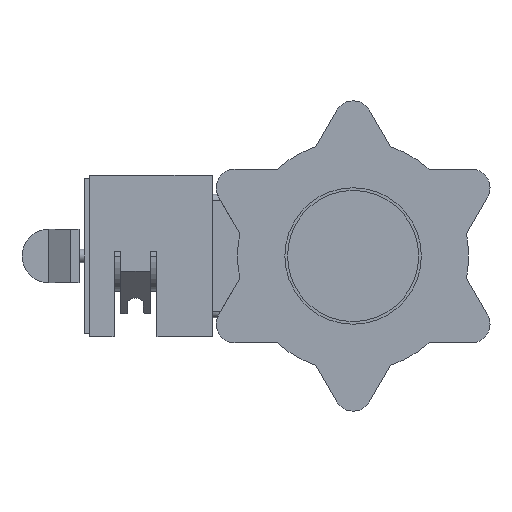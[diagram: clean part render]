
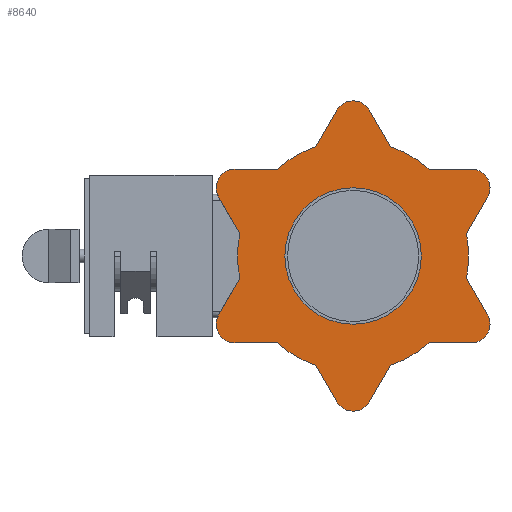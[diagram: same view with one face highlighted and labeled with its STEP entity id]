
A CAD part, left-side view. The second image highlights one B-rep face of the part: STEP entity #8640.
In plain terms, the highlighted planar face has unit normal (-1, 0, 0) as drawn and (0, -1, 0) by its records, which use the part's own axes.
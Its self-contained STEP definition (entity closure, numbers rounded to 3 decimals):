
#200=CARTESIAN_POINT('',(84.375,-135.5,16.641));
#210=VERTEX_POINT('',#200);
#240=CARTESIAN_POINT('',(74.767,-135.5,0.));
#250=DIRECTION('',(0.5,0.,0.866));
#260=VECTOR('',#250,1.);
#270=LINE('',#240,#260);
#280=CARTESIAN_POINT('',(100.026,-135.5,43.75));
#290=VERTEX_POINT('',#280);
#300=EDGE_CURVE('',#210,#290,#270,.T.);
#600=CARTESIAN_POINT('',(27.776,-135.5,81.391));
#610=VERTEX_POINT('',#600);
#640=CARTESIAN_POINT('',(74.767,-135.5,0.));
#650=DIRECTION('',(-0.5,0.,0.866));
#660=VECTOR('',#650,1.);
#670=LINE('',#640,#660);
#680=CARTESIAN_POINT('',(12.124,-135.5,108.5));
#690=VERTEX_POINT('',#680);
#700=EDGE_CURVE('',#610,#690,#670,.T.);
#1090=CARTESIAN_POINT('',(-100.026,-135.5,
43.75));
#1100=VERTEX_POINT('',#1090);
#1130=CARTESIAN_POINT('',(-74.767,-135.5,0.));
#1140=DIRECTION('',(0.5,0.,
-0.866));
#1150=VECTOR('',#1140,1.);
#1160=LINE('',#1130,#1150);
#1170=CARTESIAN_POINT('',(-84.375,-135.5,
16.641));
#1180=VERTEX_POINT('',#1170);
#1190=EDGE_CURVE('',#1100,#1180,#1160,.T.);
#1900=CARTESIAN_POINT('',(87.902,-135.5,-64.75));
#1910=VERTEX_POINT('',#1900);
#1940=CARTESIAN_POINT('',(87.902,-135.5,-50.75));
#1950=DIRECTION('',(0.,1.,0.));
#1960=DIRECTION('',(0.,0.,1.));
#1970=AXIS2_PLACEMENT_3D('',#1940,#1950,#1960);
#1980=CIRCLE('',#1970,14.);
#1990=CARTESIAN_POINT('',(100.026,-135.5,-43.75));
#2000=VERTEX_POINT('',#1990);
#2010=EDGE_CURVE('',#2000,#1910,#1980,.T.);
#2290=CARTESIAN_POINT('',(56.599,-135.5,-64.75));
#2300=VERTEX_POINT('',#2290);
#2330=CARTESIAN_POINT('',(0.,-135.5,-64.75));
#2340=DIRECTION('',(1.,0.,0.));
#2350=VECTOR('',#2340,1.);
#2360=LINE('',#2330,#2350);
#2370=EDGE_CURVE('',#2300,#1910,#2360,.T.);
#3460=CARTESIAN_POINT('',(-12.124,-135.5,108.5));
#3470=VERTEX_POINT('',#3460);
#3500=CARTESIAN_POINT('',(-74.767,-135.5,0.));
#3510=DIRECTION('',(-0.5,0.,-0.866));
#3520=VECTOR('',#3510,1.);
#3530=LINE('',#3500,#3520);
#3540=CARTESIAN_POINT('',(-27.776,-135.5,81.391));
#3550=VERTEX_POINT('',#3540);
#3560=EDGE_CURVE('',#3470,#3550,#3530,.T.);
#3820=CARTESIAN_POINT('',(87.902,-135.5,50.75));
#3830=DIRECTION('',(0.,-1.,0.));
#3840=DIRECTION('',(0.,0.,-1.));
#3850=AXIS2_PLACEMENT_3D('',#3820,#3830,#3840);
#3860=CIRCLE('',#3850,14.);
#3870=CARTESIAN_POINT('',(87.902,-135.5,64.75));
#3880=VERTEX_POINT('',#3870);
#3890=EDGE_CURVE('',#290,#3880,#3860,.T.);
#4670=CARTESIAN_POINT('',(0.,-135.5,101.5));
#4680=DIRECTION('',(0.,-1.,0.));
#4690=DIRECTION('',(0.,0.,-1.));
#4700=AXIS2_PLACEMENT_3D('',#4670,#4680,#4690);
#4710=CIRCLE('',#4700,14.);
#4720=EDGE_CURVE('',#690,#3470,#4710,.T.);
#5230=CARTESIAN_POINT('',(0.,-135.5,64.75));
#5240=DIRECTION('',(-1.,0.,0.));
#5250=VECTOR('',#5240,1.);
#5260=LINE('',#5230,#5250);
#5270=CARTESIAN_POINT('',(56.599,-135.5,64.75));
#5280=VERTEX_POINT('',#5270);
#5290=EDGE_CURVE('',#3880,#5280,#5260,.T.);
#6120=CARTESIAN_POINT('',(-100.026,-135.5,-43.75));
#6130=VERTEX_POINT('',#6120);
#6160=CARTESIAN_POINT('',(-87.902,-135.5,-50.75));
#6170=DIRECTION('',(0.,-1.,0.));
#6180=DIRECTION('',(0.,0.,-1.));
#6190=AXIS2_PLACEMENT_3D('',#6160,#6170,#6180);
#6200=CIRCLE('',#6190,14.);
#6210=CARTESIAN_POINT('',(-87.902,-135.5,-64.75));
#6220=VERTEX_POINT('',#6210);
#6230=EDGE_CURVE('',#6130,#6220,#6200,.T.);
#6390=CARTESIAN_POINT('',(-74.767,-135.5,0.));
#6400=DIRECTION('',(-0.5,0.,
-0.866));
#6410=VECTOR('',#6400,1.);
#6420=LINE('',#6390,#6410);
#6430=CARTESIAN_POINT('',(-84.375,-135.5,
-16.641));
#6440=VERTEX_POINT('',#6430);
#6450=EDGE_CURVE('',#6440,#6130,#6420,.T.);
#6880=CARTESIAN_POINT('',(0.,-135.5,-64.75));
#6890=DIRECTION('',(1.,0.,0.));
#6900=VECTOR('',#6890,1.);
#6910=LINE('',#6880,#6900);
#6920=CARTESIAN_POINT('',(-56.599,-135.5,
-64.75));
#6930=VERTEX_POINT('',#6920);
#6940=EDGE_CURVE('',#6220,#6930,#6910,.T.);
#7240=CARTESIAN_POINT('',(-56.599,-135.5,64.75));
#7250=VERTEX_POINT('',#7240);
#7280=CARTESIAN_POINT('',(0.,-135.5,64.75));
#7290=DIRECTION('',(-1.,0.,0.));
#7300=VECTOR('',#7290,1.);
#7310=LINE('',#7280,#7300);
#7320=CARTESIAN_POINT('',(-87.902,-135.5,64.75));
#7330=VERTEX_POINT('',#7320);
#7340=EDGE_CURVE('',#7250,#7330,#7310,.T.);
#7450=CARTESIAN_POINT('',(0.,-135.5,
-115.5));
#7460=DIRECTION('',(0.,1.,0.));
#7470=DIRECTION('',(0.,0.,1.));
#7480=AXIS2_PLACEMENT_3D('',#7450,#7460,#7470);
#7490=PLANE('',#7480);
#7500=CARTESIAN_POINT('',(0.,-135.5,0.));
#7510=DIRECTION('',(0.,-1.,0.));
#7520=DIRECTION('',(0.,0.,-1.));
#7530=AXIS2_PLACEMENT_3D('',#7500,#7510,#7520);
#7540=CIRCLE('',#7530,86.);
#7550=EDGE_CURVE('',#3550,#7250,#7540,.T.);
#7560=ORIENTED_EDGE('',*,*,#7550,.T.);
#7570=ORIENTED_EDGE('',*,*,#3560,.T.);
#7580=ORIENTED_EDGE('',*,*,#4720,.T.);
#7590=ORIENTED_EDGE('',*,*,#700,.T.);
#7600=CARTESIAN_POINT('',(0.,-135.5,0.));
#7610=DIRECTION('',(0.,-1.,0.));
#7620=DIRECTION('',(0.,0.,-1.));
#7630=AXIS2_PLACEMENT_3D('',#7600,#7610,#7620);
#7640=CIRCLE('',#7630,86.);
#7650=EDGE_CURVE('',#5280,#610,#7640,.T.);
#7660=ORIENTED_EDGE('',*,*,#7650,.T.);
#7670=ORIENTED_EDGE('',*,*,#5290,.T.);
#7680=ORIENTED_EDGE('',*,*,#3890,.T.);
#7690=ORIENTED_EDGE('',*,*,#300,.T.);
#7700=CARTESIAN_POINT('',(0.,-135.5,0.));
#7710=DIRECTION('',(0.,-1.,0.));
#7720=DIRECTION('',(0.,0.,-1.));
#7730=AXIS2_PLACEMENT_3D('',#7700,#7710,#7720);
#7740=CIRCLE('',#7730,86.);
#7750=CARTESIAN_POINT('',(84.375,-135.5,-16.641));
#7760=VERTEX_POINT('',#7750);
#7770=EDGE_CURVE('',#7760,#210,#7740,.T.);
#7780=ORIENTED_EDGE('',*,*,#7770,.T.);
#7790=CARTESIAN_POINT('',(74.767,-135.5,0.));
#7800=DIRECTION('',(-0.5,0.,0.866));
#7810=VECTOR('',#7800,1.);
#7820=LINE('',#7790,#7810);
#7830=EDGE_CURVE('',#2000,#7760,#7820,.T.);
#7840=ORIENTED_EDGE('',*,*,#7830,.T.);
#7850=ORIENTED_EDGE('',*,*,#2010,.F.);
#7860=ORIENTED_EDGE('',*,*,#2370,.T.);
#7870=CARTESIAN_POINT('',(0.,-135.5,0.));
#7880=DIRECTION('',(0.,-1.,0.));
#7890=DIRECTION('',(0.,0.,-1.));
#7900=AXIS2_PLACEMENT_3D('',#7870,#7880,#7890);
#7910=CIRCLE('',#7900,86.);
#7920=CARTESIAN_POINT('',(27.776,-135.5,-81.391));
#7930=VERTEX_POINT('',#7920);
#7940=EDGE_CURVE('',#7930,#2300,#7910,.T.);
#7950=ORIENTED_EDGE('',*,*,#7940,.T.);
#7960=CARTESIAN_POINT('',(74.767,-135.5,0.));
#7970=DIRECTION('',(0.5,0.,0.866));
#7980=VECTOR('',#7970,1.);
#7990=LINE('',#7960,#7980);
#8000=CARTESIAN_POINT('',(12.124,-135.5,-108.5));
#8010=VERTEX_POINT('',#8000);
#8020=EDGE_CURVE('',#8010,#7930,#7990,.T.);
#8030=ORIENTED_EDGE('',*,*,#8020,.T.);
#8040=CARTESIAN_POINT('',(0.,-135.5,-101.5
));
#8050=DIRECTION('',(0.,1.,0.));
#8060=DIRECTION('',(0.,0.,1.));
#8070=AXIS2_PLACEMENT_3D('',#8040,#8050,#8060);
#8080=CIRCLE('',#8070,14.);
#8090=CARTESIAN_POINT('',(-12.124,-135.5,-108.5));
#8100=VERTEX_POINT('',#8090);
#8110=EDGE_CURVE('',#8010,#8100,#8080,.T.);
#8120=ORIENTED_EDGE('',*,*,#8110,.F.);
#8130=CARTESIAN_POINT('',(-74.767,-135.5,0.));
#8140=DIRECTION('',(0.5,0.,-0.866));
#8150=VECTOR('',#8140,1.);
#8160=LINE('',#8130,#8150);
#8170=CARTESIAN_POINT('',(-27.776,-135.5,
-81.391));
#8180=VERTEX_POINT('',#8170);
#8190=EDGE_CURVE('',#8180,#8100,#8160,.T.);
#8200=ORIENTED_EDGE('',*,*,#8190,.T.);
#8210=CARTESIAN_POINT('',(0.,-135.5,
0.));
#8220=DIRECTION('',(0.,1.,0.));
#8230=DIRECTION('',(0.,0.,1.));
#8240=AXIS2_PLACEMENT_3D('',#8210,#8220,#8230);
#8250=CIRCLE('',#8240,86.);
#8260=EDGE_CURVE('',#8180,#6930,#8250,.T.);
#8270=ORIENTED_EDGE('',*,*,#8260,.F.);
#8280=ORIENTED_EDGE('',*,*,#6940,.T.);
#8290=ORIENTED_EDGE('',*,*,#6230,.T.);
#8300=ORIENTED_EDGE('',*,*,#6450,.T.);
#8310=CARTESIAN_POINT('',(0.,-135.5,0.));
#8320=DIRECTION('',(0.,-1.,0.));
#8330=DIRECTION('',(0.,0.,-1.));
#8340=AXIS2_PLACEMENT_3D('',#8310,#8320,#8330);
#8350=CIRCLE('',#8340,86.);
#8360=EDGE_CURVE('',#1180,#6440,#8350,.T.);
#8370=ORIENTED_EDGE('',*,*,#8360,.T.);
#8380=ORIENTED_EDGE('',*,*,#1190,.T.);
#8390=CARTESIAN_POINT('',(-87.902,-135.5,50.75));
#8400=DIRECTION('',(0.,-1.,0.));
#8410=DIRECTION('',(0.,0.,-1.));
#8420=AXIS2_PLACEMENT_3D('',#8390,#8400,#8410);
#8430=CIRCLE('',#8420,14.);
#8440=EDGE_CURVE('',#7330,#1100,#8430,.T.);
#8450=ORIENTED_EDGE('',*,*,#8440,.T.);
#8460=ORIENTED_EDGE('',*,*,#7340,.T.);
#8470=EDGE_LOOP('',(#8460,#8450,#8380,#8370,#8300,#8290,#8280,#8270,
#8200,#8120,#8030,#7950,#7860,#7850,#7840,#7780,#7690,#7680,#7670,#7660,
#7590,#7580,#7570,#7560));
#8480=FACE_OUTER_BOUND('',#8470,.T.);
#8490=CARTESIAN_POINT('',(0.,-135.5,
0.));
#8500=DIRECTION('',(0.,-1.,0.));
#8510=DIRECTION('',(0.,0.,1.));
#8520=AXIS2_PLACEMENT_3D('',#8490,#8500,#8510);
#8530=CIRCLE('',#8520,50.8);
#8540=CARTESIAN_POINT('',(0.,-135.5,50.8));
#8550=VERTEX_POINT('',#8540);
#8560=CARTESIAN_POINT('',(0.,-135.5,-50.8))
;
#8570=VERTEX_POINT('',#8560);
#8580=EDGE_CURVE('',#8550,#8570,#8530,.T.);
#8590=ORIENTED_EDGE('',*,*,#8580,.F.);
#8600=EDGE_CURVE('',#8570,#8550,#8530,.T.);
#8610=ORIENTED_EDGE('',*,*,#8600,.F.);
#8620=EDGE_LOOP('',(#8610,#8590));
#8630=FACE_BOUND('',#8620,.T.);
#8640=ADVANCED_FACE('',(#8480,#8630),#7490,.F.);
